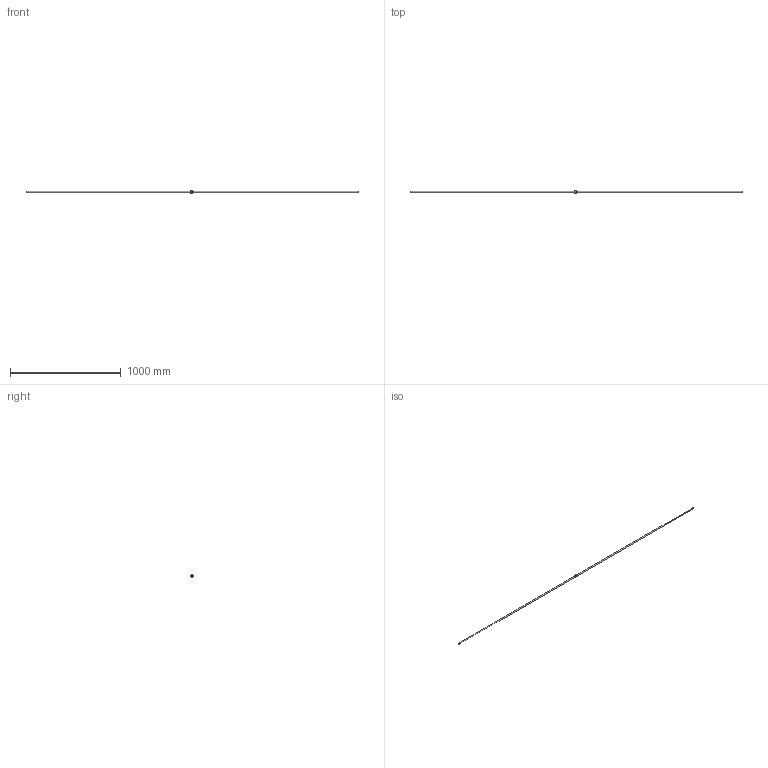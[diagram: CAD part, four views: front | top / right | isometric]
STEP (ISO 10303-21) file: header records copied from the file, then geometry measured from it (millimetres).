
FILE_DESCRIPTION(/* description */ ('STEP AP214'),/* implementation_level */ '2;1');
FILE_NAME(/* name */ 'KGS-1003-T7-RH_0_00X_00X_3000_KGM-G-EE_S',/* time_stamp */ '2025-04-06T02:54:38+02:00',/* author */ ('License CC BY-ND 4.0'),/* organization */ ('CADENAS'),/* preprocessor_version */ 'ST-DEVELOPER v19.3',/* originating_system */ 'PARTsolutions',/* authorisation */ ' ');
FILE_SCHEMA (('AUTOMOTIVE_DESIGN {1 0 10303 214 3 1 1}'));
Length unit declared in the file: millimetre
Products named in the file (3): KGS-1003-T7-RH/0/00X/00X/3000/KGM-G-EE/S; KGS1003T7RH/00X/00X/3000/0000/S; KGM-G-1003-RH-M-EE
Assembly tree (2 placements, depth 2):
  KGS-1003-T7-RH/0/00X/00X/3000/KGM-G-EE/S
    KGS1003T7RH/00X/00X/3000/0000/S
    KGM-G-1003-RH-M-EE
Bounding box: 3000 x 19 x 19 mm (x, y, z)
Volume: 240923.5 mm3; surface area: 97500.2 mm2
Topology: 2 solids, 2 shells, 24 faces, 48 edges, 30 vertices
Faces by surface type: plane 9, cylinder 8, cone 6, torus 1
Full cylindrical faces by diameter (mm): 1.5 x1, 3 x1, 10 x1, 10.55 x1, 16.4 x1, 18 x1, 19 x1
Entity records: 650 total; most frequent: CARTESIAN_POINT 124, DIRECTION 102, ORIENTED_EDGE 66, AXIS2_PLACEMENT_3D 47, EDGE_LOOP 43, FACE_BOUND 43, EDGE_CURVE 33, VERTEX_POINT 28
